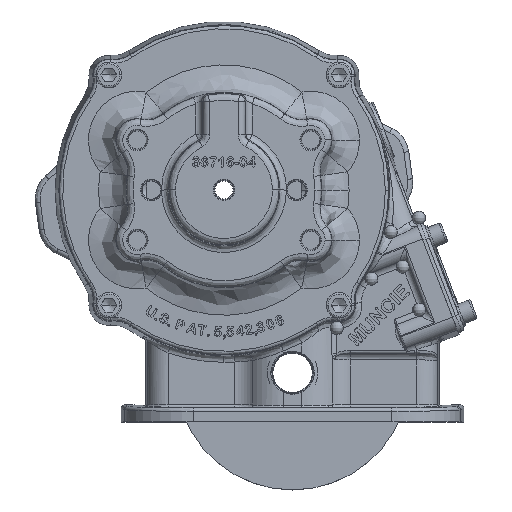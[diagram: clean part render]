
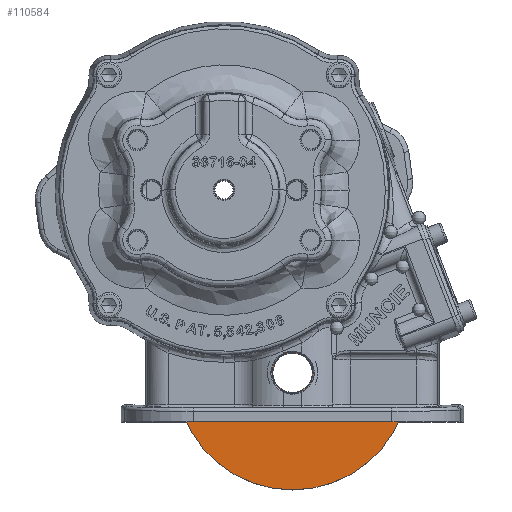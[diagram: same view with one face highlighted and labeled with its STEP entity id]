
A CAD part, top view. The second image highlights one B-rep face of the part: STEP entity #110584.
In plain terms, the highlighted planar face has unit normal (0, 0, 1).
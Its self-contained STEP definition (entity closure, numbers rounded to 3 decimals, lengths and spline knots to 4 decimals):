
#9740 = ORIENTED_EDGE ( 'NONE', *, *, #19074, .T. ) ;
#9741 = ORIENTED_EDGE ( 'NONE', *, *, #19014, .T. ) ;
#9742 = ORIENTED_EDGE ( 'NONE', *, *, #19071, .F. ) ;
#9743 = ORIENTED_EDGE ( 'NONE', *, *, #19058, .F. ) ;
#19014 = EDGE_CURVE ( 'NONE', #71177, #71179, #90627, .T. ) ;
#19058 = EDGE_CURVE ( 'NONE', #71149, #71148, #90694, .T. ) ;
#19071 = EDGE_CURVE ( 'NONE', #71148, #71149, #90707, .T. ) ;
#19074 = EDGE_CURVE ( 'NONE', #71179, #71177, #90712, .T. ) ;
#56060 = CARTESIAN_POINT ( 'NONE',  ( 0.2973, -1.4645, 1.7223 ) ) ;
#56062 = DIRECTION ( 'NONE',  ( 0., 0., -1. ) ) ;
#56063 = DIRECTION ( 'NONE',  ( 0., 1., 0. ) ) ;
#56099 = CARTESIAN_POINT ( 'NONE',  ( 0.2973, -1.4645, 1.7223 ) ) ;
#56100 = DIRECTION ( 'NONE',  ( 0., 0., -1. ) ) ;
#56102 = DIRECTION ( 'NONE',  ( 0., 1., 0. ) ) ;
#60374 = CARTESIAN_POINT ( 'NONE',  ( 0.2973, -1.4645, 1.7223 ) ) ;
#60377 = DIRECTION ( 'NONE',  ( 0., 0., -1. ) ) ;
#60379 = DIRECTION ( 'NONE',  ( 0., 1., 0. ) ) ;
#70407 = CARTESIAN_POINT ( 'NONE',  ( 0.2973, -1.4645, 1.7223 ) ) ;
#70409 = DIRECTION ( 'NONE',  ( 0., 0., -1. ) ) ;
#70411 = DIRECTION ( 'NONE',  ( 0., 1., 0. ) ) ;
#71148 = VERTEX_POINT ( 'NONE', #151894 ) ;
#71149 = VERTEX_POINT ( 'NONE', #151895 ) ;
#71177 = VERTEX_POINT ( 'NONE', #151909 ) ;
#71179 = VERTEX_POINT ( 'NONE', #151910 ) ;
#75332 = CARTESIAN_POINT ( 'NONE',  ( 0.2973, -1.4645, 1.7223 ) ) ;
#75357 = FACE_BOUND ( 'NONE', #118802, .T. ) ;
#75360 = FACE_OUTER_BOUND ( 'NONE', #118805, .T. ) ;
#75362 = PLANE ( 'NONE',  #83607 ) ;
#75366 = DIRECTION ( 'NONE',  ( 0., 0., -1. ) ) ;
#75368 = DIRECTION ( 'NONE',  ( 0., 1., 0. ) ) ;
#83607 = AXIS2_PLACEMENT_3D ( 'NONE', #75332, #75366, #75368 ) ;
#90586 = AXIS2_PLACEMENT_3D ( 'NONE', #70407, #70409, #70411 ) ;
#90627 = CIRCLE ( 'NONE', #90586, 0.3595 ) ;
#90684 = AXIS2_PLACEMENT_3D ( 'NONE', #60374, #60377, #60379 ) ;
#90694 = CIRCLE ( 'NONE', #90684, 2.135 ) ;
#90699 = AXIS2_PLACEMENT_3D ( 'NONE', #56060, #56062, #56063 ) ;
#90705 = AXIS2_PLACEMENT_3D ( 'NONE', #56099, #56100, #56102 ) ;
#90707 = CIRCLE ( 'NONE', #90699, 2.135 ) ;
#90712 = CIRCLE ( 'NONE', #90705, 0.3595 ) ;
#110584 = ADVANCED_FACE ( 'NONE', ( #75357, #75360 ), #75362, .F. ) ;
#118802 = EDGE_LOOP ( 'NONE', ( #9740, #9741 ) ) ;
#118805 = EDGE_LOOP ( 'NONE', ( #9742, #9743 ) ) ;
#151894 = CARTESIAN_POINT ( 'NONE',  ( 0.2973, -3.5995, 1.7223 ) ) ;
#151895 = CARTESIAN_POINT ( 'NONE',  ( 0.2973, 0.6705, 1.7223 ) ) ;
#151909 = CARTESIAN_POINT ( 'NONE',  ( 0.2973, -1.824, 1.7223 ) ) ;
#151910 = CARTESIAN_POINT ( 'NONE',  ( 0.2973, -1.105, 1.7223 ) ) ;
